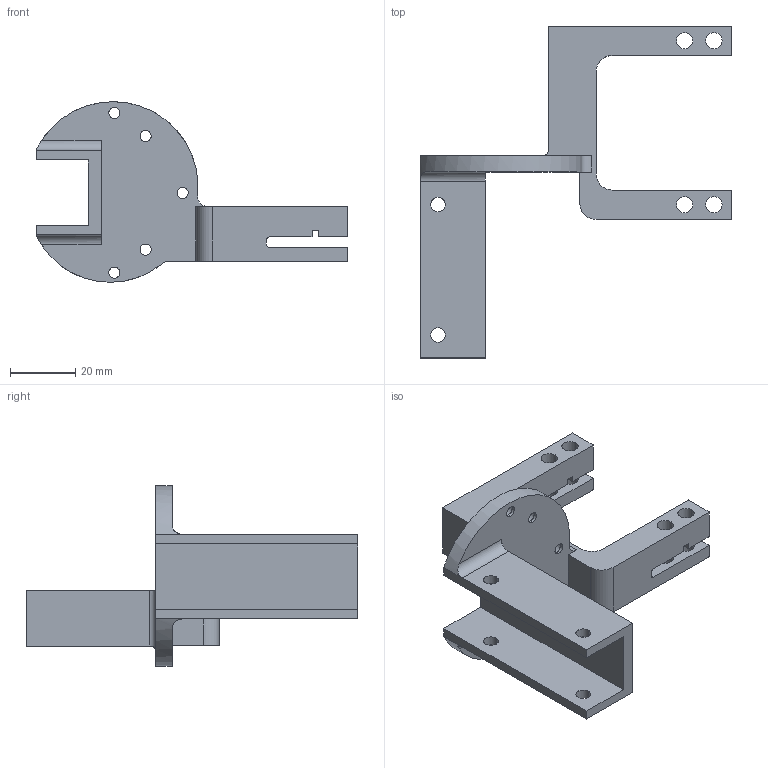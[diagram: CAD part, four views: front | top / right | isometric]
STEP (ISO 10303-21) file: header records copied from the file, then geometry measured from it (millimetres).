
FILE_DESCRIPTION (( 'STEP AP203' ), '1' );
FILE_NAME ('Mount A v2^Retro fit new axes.STEP', '2024-07-13T16:27:23', ( '' ), ( '' ), 'SwSTEP 2.0', 'SolidWorks 2020', '' );
FILE_SCHEMA (( 'CONFIG_CONTROL_DESIGN' ));
Length unit declared in the file: millimetre
Products named in the file (1): Mount A v2^Retro fit new axes
Bounding box: 95.61 x 101.8 x 55.4 mm (x, y, z)
Volume: 42351.2 mm3; surface area: 20984.9 mm2
Topology: 1 solids, 1 shells, 99 faces, 277 edges, 184 vertices
Faces by surface type: cylinder 57, plane 42
Entity records: 3409 total; most frequent: CARTESIAN_POINT 607, DIRECTION 584, ORIENTED_EDGE 554, EDGE_CURVE 277, AXIS2_PLACEMENT_3D 211, VERTEX_POINT 184, LINE 162, VECTOR 162
